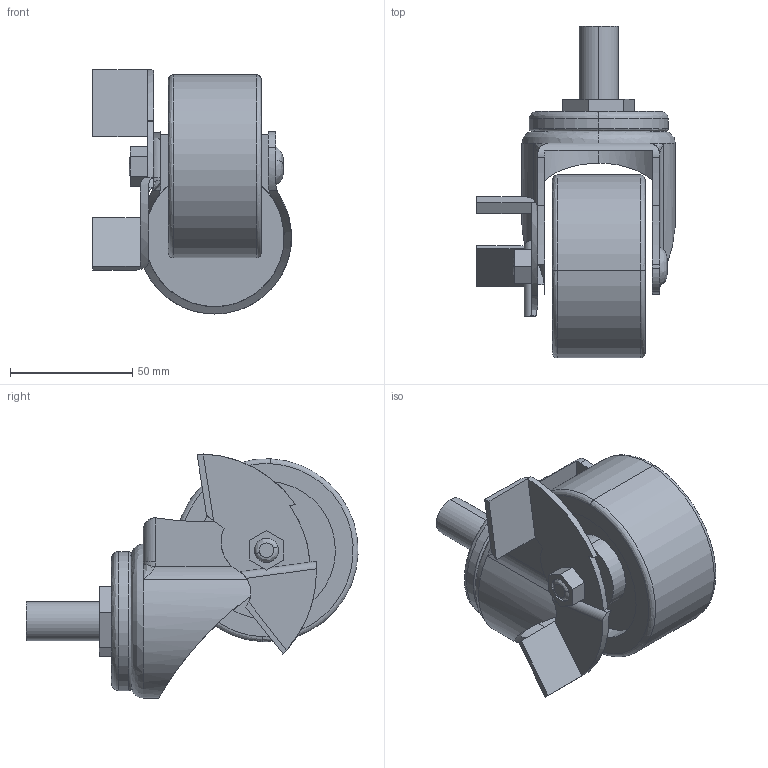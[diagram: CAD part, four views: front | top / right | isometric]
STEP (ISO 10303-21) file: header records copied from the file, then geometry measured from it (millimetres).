
FILE_DESCRIPTION (( 'STEP AP203' ), '1' );
FILE_NAME ('DYP-B75105M16.STEP', '2021-06-24T00:41:46', ( '' ), ( '' ), 'SwSTEP 2.0', 'SolidWorks 2017', '' );
FILE_SCHEMA (( 'CONFIG_CONTROL_DESIGN' ));
Length unit declared in the file: millimetre
Products named in the file (1): DYP-B75105M16
Bounding box: 81.44 x 135.96 x 99.94 mm (x, y, z)
Surface area: 53617 mm2 (no closed solid volume)
Topology: 0 solids, 8 shells, 119 faces, 321 edges, 213 vertices
Faces by surface type: plane 52, cylinder 45, bspline 22
Entity records: 4688 total; most frequent: CARTESIAN_POINT 1777, ORIENTED_EDGE 582, DIRECTION 576, EDGE_CURVE 319, AXIS2_PLACEMENT_3D 228, VERTEX_POINT 213, EDGE_LOOP 135, CIRCLE 130
